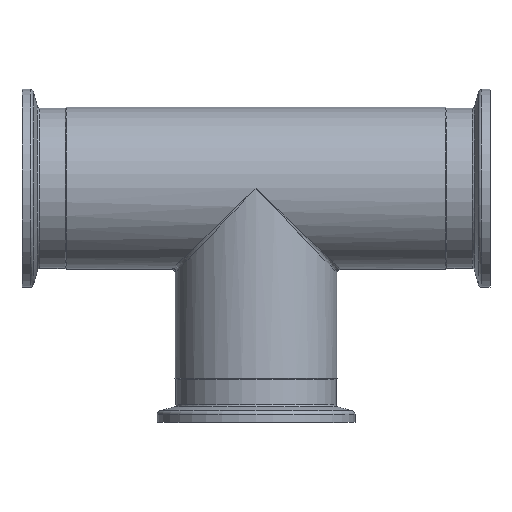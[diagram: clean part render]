
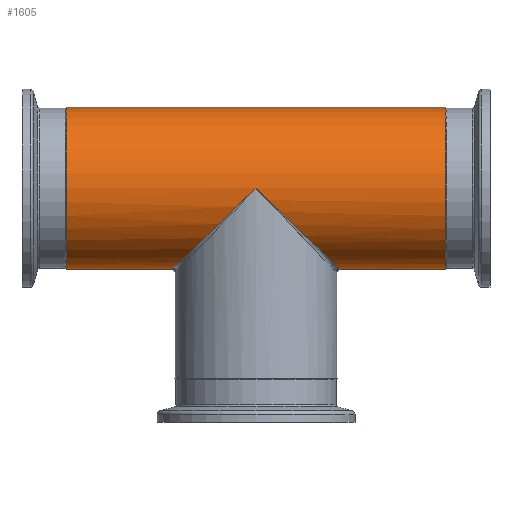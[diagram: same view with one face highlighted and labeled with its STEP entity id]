
A CAD part, top view. The second image highlights one B-rep face of the part: STEP entity #1605.
In plain terms, the highlighted cylindrical face has radius 22.5 mm (diameter 45 mm), a full revolution.
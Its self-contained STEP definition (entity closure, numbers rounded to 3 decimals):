
#757=CARTESIAN_POINT('',(-52.75,-22.5,0.));
#758=VERTEX_POINT('',#757);
#759=CARTESIAN_POINT('',(-52.75,0.,0.0));
#760=DIRECTION('',(1.0,0.0,0.0));
#761=DIRECTION('',(0.0,1.0,0.0));
#762=AXIS2_PLACEMENT_3D('',#759,#760,#761);
#763=CIRCLE('',#762,22.5);
#764=EDGE_CURVE('',#758,#758,#763,.T.);
#1006=CARTESIAN_POINT('',(52.75,-22.5,0.));
#1007=VERTEX_POINT('',#1006);
#1008=CARTESIAN_POINT('',(52.75,0.,0.0));
#1009=DIRECTION('',(-1.0,0.0,0.0));
#1010=DIRECTION('',(0.0,1.0,0.0));
#1011=AXIS2_PLACEMENT_3D('',#1008,#1009,#1010);
#1012=CIRCLE('',#1011,22.5);
#1013=EDGE_CURVE('',#1007,#1007,#1012,.T.);
#1306=CARTESIAN_POINT('',(0.,0.,-22.5));
#1307=VERTEX_POINT('',#1306);
#1308=CARTESIAN_POINT('',(0.0,0.,22.5));
#1309=VERTEX_POINT('',#1308);
#1317=CARTESIAN_POINT('',(0.,0.0,0.0));
#1318=DIRECTION('',(0.692,-0.722,0.));
#1319=DIRECTION('',(-0.722,-0.692,0.0));
#1320=AXIS2_PLACEMENT_3D('',#1317,#1318,#1319);
#1321=ELLIPSE('',#1320,32.535,22.5);
#1322=EDGE_CURVE('',#1309,#1307,#1321,.T.);
#1567=CARTESIAN_POINT('',(0.,0.0,0.0));
#1568=DIRECTION('',(-0.692,-0.722,0.));
#1569=DIRECTION('',(0.722,-0.692,0.0));
#1570=AXIS2_PLACEMENT_3D('',#1567,#1568,#1569);
#1571=ELLIPSE('',#1570,32.535,22.5);
#1572=EDGE_CURVE('',#1307,#1309,#1571,.T.);
#1590=CARTESIAN_POINT('',(27.002,0.,0.0));
#1591=DIRECTION('',(1.0,0.,0.0));
#1592=DIRECTION('',(0.0,1.0,0.0));
#1593=AXIS2_PLACEMENT_3D('',#1590,#1591,#1592);
#1594=CYLINDRICAL_SURFACE('',#1593,22.5);
#1595=ORIENTED_EDGE('',*,*,#764,.T.);
#1596=EDGE_LOOP('',(#1595));
#1597=FACE_OUTER_BOUND('',#1596,.T.);
#1598=ORIENTED_EDGE('',*,*,#1013,.T.);
#1599=EDGE_LOOP('',(#1598));
#1600=FACE_BOUND('',#1599,.T.);
#1601=ORIENTED_EDGE('',*,*,#1322,.F.);
#1602=ORIENTED_EDGE('',*,*,#1572,.F.);
#1603=EDGE_LOOP('',(#1601,#1602));
#1604=FACE_BOUND('',#1603,.T.);
#1605=ADVANCED_FACE('',(#1597,#1600,#1604),#1594,.T.);
